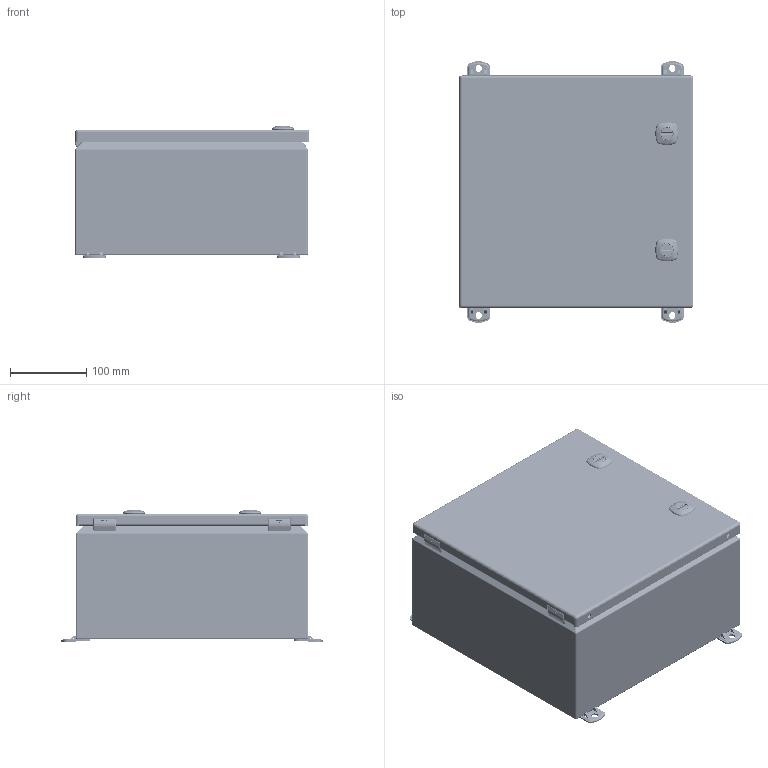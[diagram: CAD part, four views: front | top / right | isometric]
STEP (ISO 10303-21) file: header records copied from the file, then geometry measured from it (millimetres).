
FILE_DESCRIPTION(/* description */ ('5412ESM 12" x 12" x 6" Assembly'),/* implementation_level */ '2;1');
FILE_NAME(/* name */ 'C:\Vault_Workspace\Inventor_Dwg\BoxCad\Result\5412ESM121206\e-mail\3D\5412ESM121206.stp',/* time_stamp */ '2021-12-02T15:56:09-05:00',/* author */ ('BoxCad'),/* organization */ (''),/* preprocessor_version */ 'ST-DEVELOPER v18.1',/* originating_system */ 'Autodesk Inventor 2020',/* authorisation */ '');
FILE_SCHEMA (('AUTOMOTIVE_DESIGN { 1 0 10303 214 3 1 1 }'));
Products named in the file (41): 5412ESM121206; 5412ESM121206B; 5412ESM121206B-P; STK-Q-08350; STK-Q-00200; STK-Q-08112; STK-Q-00200_1; STK-Q-00200-P; STK-Q-00200-N; STK-Q-08112_1; STK-Q-08112-A; STK-Q-08112-B; 5412ESM121206MF-P; 880SP1212G; 880SP1212G-P; 5412ESM121206AK; 5412ESM121206C; 5412ESM121206C-P; 5412ESM121206G; STK-A-33033-1; STK-A-33033-2; STK-Q-33033-B; STK-Q-33033-S; STK-Q-33033-G; STK-P-02400S; STK-S-00100; STK-A-880SCQ4-SL-1; STK-A-880SCQ4-SL-2; STK-Q-78110; STK-Q-78120; STK-Q-78145; STK-Q-03200; STK-Q-78125; STK-Q-78141; STK-Q-90390; STK-Q-78160; STANDOFF_M6 x 10mm; STK-Q-08100-3; STK-Q-08100-4; STK-Q-08100-A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
Assembly tree (69 placements, depth 4):
  5412ESM121206
    5412ESM121206B
      5412ESM121206B-P
      STK-Q-08350  x4
      STK-P-02400S
      STANDOFF_M6 x 10mm
      STK-Q-00200
        STK-Q-00200-P
        STK-Q-00200-N
      STK-Q-08112
        STK-Q-08112-A
        STK-Q-08112-B
      STK-Q-00200_1
        STK-Q-00200-P
        STK-Q-00200-N
      STK-Q-08112_1
        STK-Q-08112-A
        STK-Q-08112-B
      5412ESM121206MF-P  x4
    880SP1212G
      880SP1212G-P
    5412ESM121206AK
      STK-Q-03200  x4
    5412ESM121206C
      5412ESM121206C-P
      5412ESM121206G
      STK-A-33033-1
        STK-Q-33033-B
        STK-Q-33033-S
        STK-Q-33033-G
      STK-A-33033-2
        STK-Q-33033-B
        STK-Q-33033-S
        STK-Q-33033-G
      STK-P-02400S
      STK-S-00100
      STK-A-880SCQ4-SL-1
        STK-Q-78110
        STK-Q-78120
        STK-Q-78145
        STK-Q-03200
        STK-Q-78125
        STK-Q-78141
        STK-Q-90390
        STK-Q-78160
      STK-A-880SCQ4-SL-2
        STK-Q-78110
        STK-Q-78120
        STK-Q-78145
        STK-Q-03200
        STK-Q-78125
        STK-Q-78141
        STK-Q-90390
        STK-Q-78160
      STANDOFF_M6 x 10mm
    STK-Q-08100-3
      STK-Q-08100-A
      STK-Q-08100-B
    STK-Q-08100-4
      STK-Q-08100-A
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Bounding box: 307.62 x 342.8 x 172.07 mm (x, y, z)
Volume: 757891.9 mm3; surface area: 1056230.2 mm2
Topology: 55 solids, 55 shells, 7863 faces, 20060 edges, 12224 vertices
Faces by surface type: plane 4003, cylinder 1622, bspline 1392, torus 490, sphere 182, cone 174
Full cylindrical faces by diameter (mm): 0.762 x6, 0.9 x6, 3 x2, 3.175 x2, 3.25 x2, 4.2 x2, 4.4 x6, 4.45 x2, 4.6 x10, 4.9 x32, 5 x4, 5.1 x60, 5.4 x2, 5.9 x48, 6 x8, 6.1 x6, 7.62 x2, 7.8 x2, 8.128 x4, 9.6 x2, 9.9 x4, 10 x4, 12.8 x2, 13 x6, 15.9 x2, 16 x2, 19.7 x2, 20.6 x2, 25 x4, 29 x4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
Entity records: 118895 total; most frequent: CARTESIAN_POINT 46796, ORIENTED_EDGE 15514, DIRECTION 13437, EDGE_CURVE 7757, VERTEX_POINT 4779, AXIS2_PLACEMENT_3D 4751, LINE 3935, VECTOR 3935
